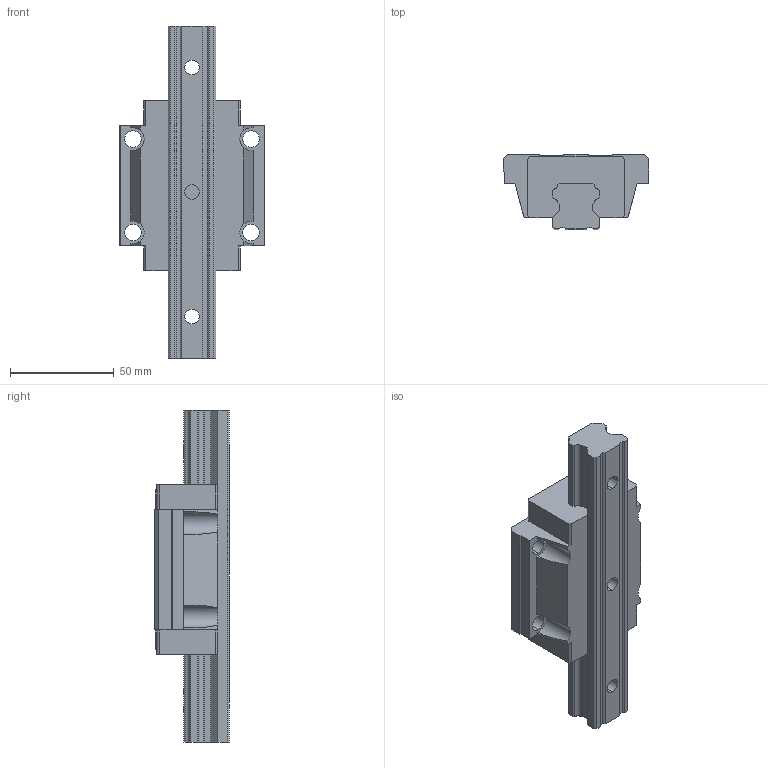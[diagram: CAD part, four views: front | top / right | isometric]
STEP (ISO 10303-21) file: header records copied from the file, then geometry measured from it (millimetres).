
FILE_DESCRIPTION (( 'STEP AP214' ), '1' );
FILE_NAME ('7.1003 Lineaarikelkka HTW25CC.STEP', '2026-03-11T10:56:35', ( '' ), ( '' ), 'SwSTEP 2.0', 'SolidWorks 2025', '' );
FILE_SCHEMA (( 'AUTOMOTIVE_DESIGN' ));
Length unit declared in the file: millimetre
Products named in the file (4): HG_BLOCK_HGWCA_ANY; HG_RAIL0_R_ANY; HG_BLOCK_SS_ANY_ASM; 7.1003 Lineaarikelkka HTW25CC
Assembly tree (3 placements, depth 3):
  7.1003 Lineaarikelkka HTW25CC
    HG_BLOCK_SS_ANY_ASM
      HG_BLOCK_HGWCA_ANY
    HG_RAIL0_R_ANY
Bounding box: 70 x 36 x 160 mm (x, y, z)
Volume: 176021.8 mm3; surface area: 39623.7 mm2
Topology: 2 solids, 2 shells, 713 faces, 2016 edges, 1344 vertices
Faces by surface type: plane 653, cylinder 36, bspline 24
Entity records: 32601 total; most frequent: CARTESIAN_POINT 6204, ORIENTED_EDGE 4032, DIRECTION 3424, EDGE_CURVE 2016, LINE 1888, VECTOR 1888, VERTEX_POINT 1344, AXIS2_PLACEMENT_3D 768
